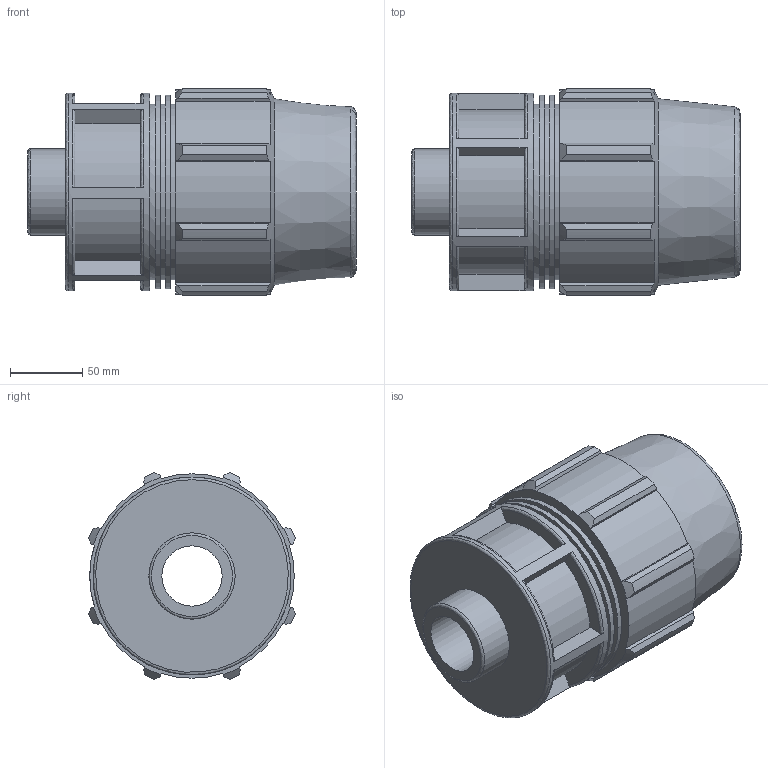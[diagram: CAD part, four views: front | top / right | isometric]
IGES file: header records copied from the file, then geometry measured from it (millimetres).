
Global section: file name: 0702060900200A.ipt; native system: Autodesk Inventor 2015; preprocessor: unknown; author: KIM; date: 20180325.201123; units: millimetre
Bounding box: 227 x 143.02 x 143.02 mm (x, y, z)
Volume: 1564742.1 mm3; surface area: 201187 mm2
Topology: 1 solids, 1 shells, 125 faces, 333 edges, 224 vertices
Faces by surface type: plane 67, cylinder 29, revolution 19, cone 10
Full cylindrical faces by diameter (mm): 59.614 x1, 121.6 x3, 134.064 x2, 136.8 x1
